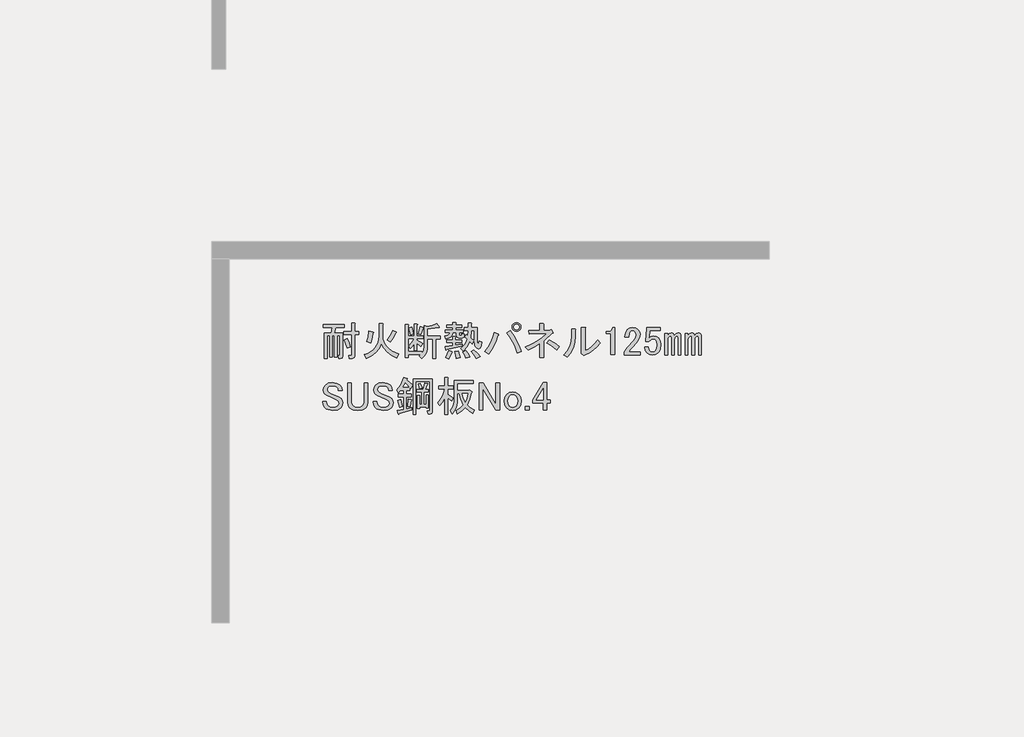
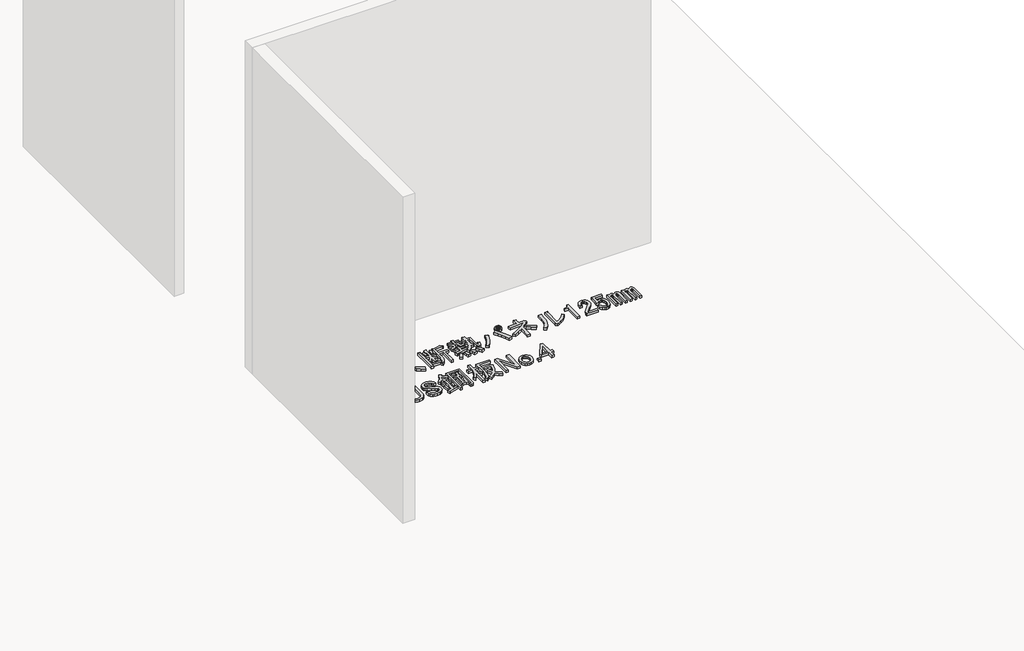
# One storey, part 115 of 117: 1 proxy.
"""IFC4 building model written with IfcOpenShell, lengths in millimetres."""

from ifc_helpers import new_model, si_unit, frame, origin, place, context, project, spatial, polyline, outline, extrude, element, save

model = new_model("IFC4")

# Units and contexts
model_context = context("Model", 3, world=origin())
ifc_project = project(units=[si_unit("LENGTHUNIT", "METRE", prefix="MILLI")], contexts=[model_context])

# Site, building, storey
site = spatial("IfcSite", under=ifc_project)
building = spatial("IfcBuilding", under=site)
storey = spatial("IfcBuildingStorey", under=building, Name="レベル 1", Elevation=500.0)

# Proxy
placement = place(None, origin())
element("IfcBuildingElementProxy", 1, Name="200㎜\u3000MS Pゴシック", ObjectType="200㎜\u3000MS Pゴシック", at=placement, inside=storey, context=model_context, shape_type="SweptSolid", body=[
    extrude(outline(polyline([(72978.5674486, 7229.3142262), (72971.0959694, 7259.7748726), (72960.176115, 7289.0860605), (72982.0158237, 7297.132269), (72994.372501, 7267.5337164), (73001.5566157, 7238.5098931), (72978.5674486, 7229.3142262)])), frame((0.0, 0.0, 500.0), z_axis=(0.0, 0.0, 1.0), x_axis=(1.0, 0.0, 0.0)), (0.0, 0.0, 1.0), 25.0),
    extrude(outline(polyline([(72887.7602388, 7320.121436), (72871.6678219, 7320.121436), (72871.6678219, 7164.9445585), (72852.1270299, 7164.9445585), (72852.1270299, 7320.121436), (72833.7356963, 7320.121436), (72833.7356963, 7152.3005167), (72814.1949043, 7152.3005167), (72814.1949043, 7338.5127697), (72865.9205301, 7338.5127697), (72871.6678219, 7377.5943537), (72804.9992375, 7377.5943537), (72804.9992375, 7399.4340623), (72960.176115, 7399.4340623), (72960.176115, 7377.5943537), (72895.8064473, 7377.5943537), (72885.4613221, 7338.5127697), (72946.3826148, 7338.5127697), (72946.3826148, 7170.6918503), (72942.3595106, 7158.6225376), (72930.2901979, 7154.5994334), (72919.9450727, 7154.5994334), (72915.3472393, 7176.439142), (72922.2439894, 7176.439142), (72925.6923645, 7177.5886004), (72926.8418228, 7181.0369755), (72926.8418228, 7320.121436), (72907.3010308, 7320.121436), (72907.3010308, 7164.9445585), (72887.7602388, 7164.9445585), (72887.7602388, 7320.121436)])), frame((0.0, 0.0, 500.0), z_axis=(0.0, 0.0, 1.0), x_axis=(1.0, 0.0, 0.0)), (0.0, 0.0, 1.0), 25.0),
    extrude(outline(polyline([(72956.72774, 7325.8687278), (72956.72774, 7347.7084365), (73013.0511992, 7347.7084365), (73013.0511992, 7409.7791875), (73034.8909079, 7409.7791875), (73039.7761059, 7407.4802708), (73036.0403663, 7402.8824374), (73036.0403663, 7347.7084365), (73064.7768251, 7347.7084365), (73064.7768251, 7325.8687278), (73036.0403663, 7325.8687278), (73036.0403663, 7172.990767), (73031.4425328, 7159.1972668), (73017.6490326, 7154.5994334), (72994.6598656, 7154.5994334), (72991.2114905, 7176.439142), (73008.4533658, 7176.439142), (73011.9017409, 7177.5886004), (73013.0511992, 7181.0369755), (73013.0511992, 7325.8687278), (72956.72774, 7325.8687278)])), frame((0.0, 0.0, 500.0), z_axis=(0.0, 0.0, 1.0), x_axis=(1.0, 0.0, 0.0)), (0.0, 0.0, 1.0), 25.0),
    extrude(outline(polyline([(73226.8504527, 7261.4990601), (73210.9017181, 7226.6561038), (73187.1941395, 7196.8420278), (73155.7277172, 7172.0568321), (73116.5024509, 7152.3005167), (73102.7089507, 7181.0369755), (73128.032955, 7190.71757), (73149.9804254, 7202.5174784), (73168.5513619, 7216.4367006), (73183.7457645, 7232.4752367), (73195.5636332, 7250.6330866), (73204.0049679, 7270.9102504), (73209.0697688, 7293.3067279), (73210.7580358, 7317.8225193), (73210.7580358, 7408.6297292), (73237.1955779, 7406.3308125), (73240.6439529, 7402.8824374), (73237.1955779, 7397.1351456), (73237.1955779, 7317.8225193), (73238.9916065, 7296.377937), (73244.3796926, 7276.2983364), (73253.3598359, 7257.5837176), (73265.9320367, 7240.2340806), (73282.0962947, 7224.2494254), (73301.8526102, 7209.629752), (73352.1414131, 7184.4853505), (73340.6468295, 7155.7488917), (73301.2060398, 7175.2896837), (73269.0930471, 7199.4283091), (73244.3078514, 7228.1647679), (73226.8504527, 7261.4990601)])), frame((0.0, 0.0, 500.0), z_axis=(0.0, 0.0, 1.0), x_axis=(1.0, 0.0, 0.0)), (0.0, 0.0, 1.0), 25.0),
    extrude(outline(polyline([(73330.3017044, 7337.3633113), (73310.1861832, 7297.9943628), (73293.5190371, 7271.8441853), (73270.5298701, 7286.7871438), (73290.3580266, 7318.3972485), (73308.4619957, 7358.0535617), (73333.7500794, 7345.4095198), (73336.3363607, 7341.6737801), (73330.3017044, 7337.3633113)])), frame((0.0, 0.0, 500.0), z_axis=(0.0, 0.0, 1.0), x_axis=(1.0, 0.0, 0.0)), (0.0, 0.0, 1.0), 25.0),
    extrude(outline(polyline([(73122.2497427, 7276.4420187), (73134.0316908, 7310.6384046), (73137.1927012, 7353.4557283), (73165.92916, 7346.5589781), (73170.5269934, 7342.8232385), (73165.92916, 7338.5127697), (73162.1934204, 7304.0290191), (73150.9862015, 7267.2463519), (73122.2497427, 7276.4420187)])), frame((0.0, 0.0, 500.0), z_axis=(0.0, 0.0, 1.0), x_axis=(1.0, 0.0, 0.0)), (0.0, 0.0, 1.0), 25.0),
    extrude(outline(polyline([(73647.5522095, 7381.0427287), (73645.828022, 7376.4448953), (73638.3565427, 7378.743812), (73561.3428331, 7366.0997701), (73561.3428331, 7316.673061), (73653.2995013, 7316.673061), (73653.2995013, 7294.8333523), (73622.2641258, 7294.8333523), (73622.2641258, 7154.5994334), (73599.2749588, 7154.5994334), (73599.2749588, 7294.8333523), (73561.3428331, 7294.8333523), (73561.3428331, 7245.4066432), (73558.7565518, 7217.6041193), (73550.997708, 7192.8189236), (73538.0663015, 7171.051056), (73519.9623325, 7152.3005167), (73502.7204572, 7171.8413086), (73513.0655823, 7181.0369755), (73423.4078309, 7181.0369755), (73423.4078309, 7159.1972668), (73400.4186638, 7159.1972668), (73400.4186638, 7398.284604), (73422.2583725, 7398.284604), (73427.1435705, 7395.9856873), (73423.4078309, 7391.3878539), (73423.4078309, 7315.5236026), (73465.9377899, 7315.5236026), (73465.9377899, 7402.8824374), (73484.3291235, 7402.8824374), (73489.2143215, 7400.5835207), (73485.4785819, 7395.9856873), (73485.4785819, 7315.5236026), (73529.1579993, 7315.5236026), (73529.1579993, 7297.132269), (73485.4785819, 7297.132269), (73485.4785819, 7287.9366022), (73525.7096242, 7261.4990601), (73511.916124, 7239.6593514), (73485.4785819, 7266.0968935), (73485.4785819, 7213.2218093), (73465.9377899, 7213.2218093), (73465.9377899, 7261.4990601), (73452.7190189, 7241.6709035), (73438.3507895, 7225.8658512), (73425.7067476, 7244.2571848), (73447.5464563, 7268.3958102), (73464.7883316, 7297.132269), (73423.4078309, 7297.132269), (73423.4078309, 7202.8766841), (73521.1117908, 7202.8766841), (73521.1117908, 7189.0831839), (73534.0431973, 7213.2218093), (73538.3536661, 7246.5561015), (73538.3536661, 7391.3878539), (73560.1933748, 7385.6405621), (73596.4013129, 7393.1120414), (73626.8619592, 7406.3308125), (73647.5522095, 7381.0427287)])), frame((0.0, 0.0, 500.0), z_axis=(0.0, 0.0, 1.0), x_axis=(1.0, 0.0, 0.0)), (0.0, 0.0, 1.0), 25.0),
    extrude(outline(polyline([(73493.5247904, 7332.7654779), (73510.7666656, 7385.6405621), (73531.456916, 7379.8932704), (73533.1811035, 7376.7322599), (73529.1579993, 7374.1459786), (73511.916124, 7325.8687278), (73493.5247904, 7332.7654779)])), frame((0.0, 0.0, 500.0), z_axis=(0.0, 0.0, 1.0), x_axis=(1.0, 0.0, 0.0)), (0.0, 0.0, 1.0), 25.0),
    extrude(outline(polyline([(73439.5002478, 7324.7192695), (73426.8562059, 7375.2954369), (73446.3969979, 7382.1921871), (73454.1558418, 7358.0535617), (73459.0410398, 7331.6160196), (73439.5002478, 7324.7192695)])), frame((0.0, 0.0, 500.0), z_axis=(0.0, 0.0, 1.0), x_axis=(1.0, 0.0, 0.0)), (0.0, 0.0, 1.0), 25.0),
    extrude(outline(polyline([(73770.5442532, 7340.8116864), (73745.2561695, 7340.8116864), (73740.6583361, 7323.3542877), (73730.3132109, 7310.0636755), (73714.220794, 7300.9398498), (73692.3810853, 7295.9828107), (73687.7832519, 7315.5236026), (73713.0713356, 7324.1445403), (73720.5428149, 7331.4723373), (73724.5659191, 7340.8116864), (73688.9327102, 7340.8116864), (73688.9327102, 7359.20302), (73742.9572528, 7359.20302), (73742.9572528, 7376.4448953), (73699.2778354, 7376.4448953), (73699.2778354, 7394.8362289), (73742.9572528, 7394.8362289), (73742.9572528, 7413.2275626), (73764.7969614, 7413.2275626), (73769.6821594, 7410.9286459), (73765.9464198, 7406.3308125), (73765.9464198, 7394.8362289), (73808.4763788, 7394.8362289), (73808.4763788, 7376.4448953), (73765.9464198, 7376.4448953), (73765.9464198, 7359.20302), (73818.821504, 7359.20302), (73818.821504, 7340.8116864), (73790.0850452, 7340.8116864), (73790.0850452, 7328.1676445), (73791.5218681, 7322.9950819), (73795.832337, 7321.2708944), (73806.1774621, 7321.2708944), (73809.9132018, 7324.4319049), (73809.6258372, 7333.9149363), (73829.1666292, 7331.6160196), (73826.2929833, 7310.0636755), (73820.9767384, 7304.6755894), (73813.0742122, 7302.8795608), (73788.9355868, 7302.8795608), (73775.1420866, 7307.7647588), (73770.5442532, 7322.4203528), (73770.5442532, 7340.8116864)])), frame((0.0, 0.0, 500.0), z_axis=(0.0, 0.0, 1.0), x_axis=(1.0, 0.0, 0.0)), (0.0, 0.0, 1.0), 25.0),
    extrude(outline(polyline([(73901.5825053, 7358.0535617), (73879.7427966, 7358.0535617), (73875.1449632, 7300.5806441), (73894.6857552, 7282.1893104), (73884.3406301, 7260.3496017), (73868.2482131, 7276.4420187), (73848.9947857, 7238.7972576), (73818.821504, 7206.3250592), (73801.5796287, 7227.0153095), (73816.6662696, 7238.9409399), (73829.7413583, 7254.0275808), (73840.804895, 7272.2752321), (73849.8568795, 7293.683894), (73832.6150042, 7308.6268525), (73840.6612127, 7325.8687278), (73854.4547129, 7315.5236026), (73856.7536296, 7358.0535617), (73829.1666292, 7358.0535617), (73829.1666292, 7376.4448953), (73856.7536296, 7376.4448953), (73856.7536296, 7410.9286459), (73878.5933383, 7410.9286459), (73883.4785363, 7408.6297292), (73879.7427966, 7404.0318957), (73879.7427966, 7376.4448953), (73921.1232973, 7376.4448953), (73921.1232973, 7279.8903937), (73924.5716724, 7255.7517683), (73927.804524, 7253.7402162), (73930.6063287, 7256.9012267), (73934.9167975, 7278.7409354), (73954.4575895, 7271.8441853), (73949.9315973, 7245.0474374), (73942.1009122, 7229.0268616), (73930.9655345, 7223.7824579), (73916.5254639, 7229.3142262), (73909.9879195, 7236.6420232), (73905.318245, 7248.280289), (73901.5825053, 7284.4882271), (73901.5825053, 7358.0535617)])), frame((0.0, 0.0, 500.0), z_axis=(0.0, 0.0, 1.0), x_axis=(1.0, 0.0, 0.0)), (0.0, 0.0, 1.0), 25.0),
    extrude(outline(polyline([(73700.4272937, 7218.9691011), (73698.4157416, 7214.0839031), (73694.680002, 7215.520726), (73688.9327102, 7239.6593514), (73744.1067111, 7247.7055599), (73744.1067111, 7270.6947269), (73700.4272937, 7270.6947269), (73700.4272937, 7289.0860605), (73744.1067111, 7289.0860605), (73744.1067111, 7312.0752276), (73762.4980447, 7312.0752276), (73767.3832427, 7309.7763109), (73763.6475031, 7305.1784775), (73763.6475031, 7289.0860605), (73808.4763788, 7289.0860605), (73808.4763788, 7270.6947269), (73763.6475031, 7270.6947269), (73763.6475031, 7251.1539349), (73814.2236706, 7260.3496017), (73814.2236706, 7244.2571848), (73700.4272937, 7218.9691011)])), frame((0.0, 0.0, 500.0), z_axis=(0.0, 0.0, 1.0), x_axis=(1.0, 0.0, 0.0)), (0.0, 0.0, 1.0), 25.0),
    extrude(outline(polyline([(73898.1341303, 7214.3712677), (73922.8474849, 7193.1062881), (73941.8135477, 7168.3929336), (73915.3760056, 7153.449975), (73896.1225782, 7183.0485276), (73877.4438799, 7202.8766841), (73898.1341303, 7214.3712677)])), frame((0.0, 0.0, 500.0), z_axis=(0.0, 0.0, 1.0), x_axis=(1.0, 0.0, 0.0)), (0.0, 0.0, 1.0), 25.0),
    extrude(outline(polyline([(73839.5117543, 7155.7488917), (73831.1781813, 7180.4622463), (73817.6720456, 7201.7272258), (73838.362296, 7209.7734343), (73855.3168067, 7188.2210902), (73867.0987548, 7164.9445585), (73839.5117543, 7155.7488917)])), frame((0.0, 0.0, 500.0), z_axis=(0.0, 0.0, 1.0), x_axis=(1.0, 0.0, 0.0)), (0.0, 0.0, 1.0), 25.0),
    extrude(outline(polyline([(73738.3594193, 7204.0261425), (73741.8077944, 7199.1409445), (73736.0605026, 7195.979934), (73726.2901067, 7170.4044857), (73715.3702523, 7151.1510583), (73692.3810853, 7162.6456418), (73705.0251271, 7186.209538), (73715.3702523, 7213.2218093), (73738.3594193, 7204.0261425)])), frame((0.0, 0.0, 500.0), z_axis=(0.0, 0.0, 1.0), x_axis=(1.0, 0.0, 0.0)), (0.0, 0.0, 1.0), 25.0),
    extrude(outline(polyline([(73783.1882951, 7208.6239759), (73793.2460557, 7181.32434), (73798.1312537, 7159.1972668), (73769.3947949, 7153.449975), (73766.8085136, 7175.0023191), (73759.0496697, 7205.1756008), (73783.1882951, 7208.6239759)])), frame((0.0, 0.0, 500.0), z_axis=(0.0, 0.0, 1.0), x_axis=(1.0, 0.0, 0.0)), (0.0, 0.0, 1.0), 25.0),
    extrude(outline(polyline([(74206.1889686, 7350.0073532), (74193.5449268, 7352.3062699), (74183.1998016, 7359.20302), (74176.3030515, 7369.5481452), (74174.0041348, 7382.1921871), (74176.3030515, 7394.8362289), (74183.1998016, 7405.1813541), (74193.5449268, 7412.0781042), (74206.1889686, 7414.3770209), (74218.8330105, 7412.0781042), (74229.1781357, 7405.1813541), (74236.0748858, 7394.8362289), (74238.3738025, 7382.1921871), (74236.0748858, 7369.5481452), (74229.1781357, 7359.20302), (74218.8330105, 7352.3062699), (74206.1889686, 7350.0073532)]), holes=[polyline([(74206.1889686, 7361.5019367), (74214.5225417, 7362.9387597), (74221.1319272, 7367.2492285), (74225.442396, 7373.858614), (74226.879219, 7382.1921871), (74225.442396, 7390.5257601), (74221.1319272, 7397.1351456), (74214.5225417, 7401.4456145), (74206.1889686, 7402.8824374), (74197.8553956, 7401.4456145), (74191.2460101, 7397.1351456), (74186.9355412, 7390.5257601), (74185.4987183, 7382.1921871), (74186.9355412, 7373.858614), (74191.2460101, 7367.2492285), (74197.8553956, 7362.9387597), (74206.1889686, 7361.5019367)])]), frame((0.0, 0.0, 500.0), z_axis=(0.0, 0.0, 1.0), x_axis=(1.0, 0.0, 0.0)), (0.0, 0.0, 1.0), 25.0),
    extrude(outline(polyline([(74160.2106345, 7355.754645), (74186.8637001, 7319.0438188), (74209.3499791, 7281.3272167), (74227.6694716, 7242.6048384), (74241.8221775, 7202.8766841), (74210.786802, 7192.531559), (74195.3409554, 7235.6362472), (74177.7398744, 7274.143102), (74157.983559, 7308.0521234), (74136.0720092, 7337.3633113), (74160.2106345, 7355.754645)])), frame((0.0, 0.0, 500.0), z_axis=(0.0, 0.0, 1.0), x_axis=(1.0, 0.0, 0.0)), (0.0, 0.0, 1.0), 25.0),
    extrude(outline(polyline([(74072.8517998, 7329.3171029), (74076.874904, 7323.8571757), (74070.5528831, 7318.9719777), (74058.6272527, 7283.5542922), (74043.5406118, 7249.717112), (74025.2929605, 7217.460437), (74003.8842987, 7186.7842672), (73977.4467566, 7204.0261425), (74000.6514471, 7235.4925649), (74019.689351, 7268.9705394), (74034.5604684, 7304.460066), (74045.2647993, 7341.9611447), (74072.8517998, 7329.3171029)])), frame((0.0, 0.0, 500.0), z_axis=(0.0, 0.0, 1.0), x_axis=(1.0, 0.0, 0.0)), (0.0, 0.0, 1.0), 25.0),
    extrude(outline(polyline([(74449.8741393, 7360.3524784), (74456.7708894, 7362.6513951), (74469.4149312, 7345.4095198), (74470.5643896, 7339.3748634), (74464.8170978, 7337.3633113), (74401.5968885, 7281.0398521), (74401.5968885, 7160.3467251), (74375.1593464, 7160.3467251), (74375.1593464, 7262.6485184), (74334.9283041, 7238.5098931), (74290.0994283, 7216.6701844), (74270.5586363, 7237.3604347), (74316.1059235, 7256.8293855), (74357.3427419, 7279.6030291), (74394.2690915, 7305.6813655), (74426.8849722, 7335.0643946), (74296.9961784, 7329.3171029), (74293.5478034, 7354.6051866), (74375.1593464, 7356.9041033), (74375.1593464, 7408.6297292), (74398.1485134, 7408.6297292), (74404.1831698, 7405.1813541), (74401.5968885, 7399.4340623), (74401.5968885, 7358.0535617), (74449.8741393, 7360.3524784)])), frame((0.0, 0.0, 500.0), z_axis=(0.0, 0.0, 1.0), x_axis=(1.0, 0.0, 0.0)), (0.0, 0.0, 1.0), 25.0),
    extrude(outline(polyline([(74495.8524733, 7216.6701844), (74458.7824415, 7245.9813723), (74425.7355139, 7267.2463519), (74442.9773892, 7289.0860605), (74481.7716085, 7265.8095289), (74515.3932653, 7239.6593514), (74495.8524733, 7216.6701844)])), frame((0.0, 0.0, 500.0), z_axis=(0.0, 0.0, 1.0), x_axis=(1.0, 0.0, 0.0)), (0.0, 0.0, 1.0), 25.0),
    extrude(outline(polyline([(74702.8469334, 7209.7734343), (74727.6321291, 7221.9864292), (74751.4115488, 7239.0846222), (74774.1851924, 7261.0680132), (74795.9530599, 7287.9366022), (74812.0454768, 7266.0968935), (74788.7689452, 7238.2943696), (74762.6187677, 7214.6586322), (74733.5949443, 7195.1896814), (74701.697475, 7179.8875171), (74692.5018082, 7175.2896837), (74674.1104746, 7189.0831839), (74676.4093913, 7194.8304757), (74676.4093913, 7379.8932704), (74700.5480167, 7379.8932704), (74706.2953084, 7376.4448953), (74702.8469334, 7370.6976035), (74702.8469334, 7209.7734343)])), frame((0.0, 0.0, 500.0), z_axis=(0.0, 0.0, 1.0), x_axis=(1.0, 0.0, 0.0)), (0.0, 0.0, 1.0), 25.0),
    extrude(outline(polyline([(74548.8195142, 7178.7380587), (74573.9639157, 7207.9774056), (74591.9242024, 7240.5214452), (74602.7003745, 7276.3701775), (74606.2924318, 7315.5236026), (74606.2924318, 7367.2492285), (74630.4310572, 7367.2492285), (74636.178349, 7363.8008534), (74632.7299739, 7358.0535617), (74632.7299739, 7316.673061), (74628.9223931, 7270.9102504), (74617.4996507, 7230.17632), (74598.4617468, 7194.4712699), (74571.8086812, 7163.7951002), (74548.8195142, 7178.7380587)])), frame((0.0, 0.0, 500.0), z_axis=(0.0, 0.0, 1.0), x_axis=(1.0, 0.0, 0.0)), (0.0, 0.0, 1.0), 25.0),
    extrude(outline(polyline([(74891.3581031, 7356.9041033), (74899.4043116, 7367.8239577), (74902.8526866, 7379.8932704), (74916.6461869, 7379.8932704), (74916.6461869, 7181.0369755), (74890.2086448, 7181.0369755), (74890.2086448, 7333.9149363), (74855.7248942, 7333.9149363), (74855.7248942, 7347.7084365), (74866.0700194, 7347.7084365), (74880.4382488, 7350.0073532), (74891.3581031, 7356.9041033)])), frame((0.0, 0.0, 500.0), z_axis=(0.0, 0.0, 1.0), x_axis=(1.0, 0.0, 0.0)), (0.0, 0.0, 1.0), 25.0),
    extrude(outline(polyline([(74991.3609797, 7309.7763109), (74995.9588132, 7341.099051), (75009.7523134, 7363.8008534), (75026.1320949, 7375.0080724), (75045.3855223, 7378.743812), (75068.0873247, 7375.0080724), (75085.6165646, 7363.8008534), (75096.8237835, 7347.1337073), (75100.5595232, 7327.0181862), (75096.2490544, 7301.1553732), (75083.3176479, 7278.7409354), (75049.9833557, 7240.8088098), (75031.5920221, 7220.1185594), (75017.7985218, 7201.7272258), (75104.0078982, 7201.7272258), (75104.0078982, 7179.8875171), (74986.7631463, 7179.8875171), (74986.7631463, 7199.4283091), (74992.7978027, 7213.2218093), (75006.3039383, 7231.6131429), (75053.4317308, 7283.3387688), (75068.0873247, 7304.6037483), (75072.9725227, 7327.0181862), (75070.673606, 7339.662228), (75063.7768559, 7350.0073532), (75056.018012, 7355.1799158), (75046.5349806, 7356.9041033), (75037.914043, 7355.1799158), (75030.4425637, 7350.0073532), (75020.9595323, 7333.6275717), (75017.7985218, 7309.7763109), (74991.3609797, 7309.7763109)])), frame((0.0, 0.0, 500.0), z_axis=(0.0, 0.0, 1.0), x_axis=(1.0, 0.0, 0.0)), (0.0, 0.0, 1.0), 25.0),
    extrude(outline(polyline([(75147.6873156, 7376.4448953), (75246.5407339, 7376.4448953), (75246.5407339, 7354.6051866), (75169.5270243, 7354.6051866), (75169.5270243, 7351.1568116), (75166.0786493, 7308.6268525), (75164.9291909, 7301.7301024), (75180.4468787, 7312.0752276), (75197.1140248, 7315.5236026), (75218.0916397, 7311.787863), (75235.0461504, 7300.5806441), (75247.1154631, 7280.7524875), (75251.1385673, 7253.4528516), (75245.9660047, 7218.9691011), (75239.5003015, 7205.1756008), (75230.448317, 7193.6810173), (75212.3443479, 7181.6117046), (75190.2172746, 7177.5886004), (75169.2396597, 7181.32434), (75152.285149, 7192.531559), (75140.2158363, 7211.2102572), (75133.8938154, 7237.3604347), (75160.3313575, 7237.3604347), (75164.3544617, 7218.6817365), (75171.825941, 7206.3250592), (75179.5847849, 7201.1524966), (75189.0678163, 7199.4283091), (75201.4244936, 7201.4398612), (75210.907525, 7207.4745175), (75220.3905564, 7224.4290282), (75223.5515669, 7250.0044766), (75220.9652856, 7274.143102), (75213.2064417, 7289.0860605), (75205.7349624, 7294.2586231), (75197.1140248, 7295.9828107), (75184.1826183, 7293.3965294), (75172.9753994, 7285.6376855), (75163.7797326, 7275.2925603), (75140.7905655, 7275.2925603), (75141.9400239, 7283.3387688), (75147.6873156, 7371.8470619), (75147.6873156, 7376.4448953)])), frame((0.0, 0.0, 500.0), z_axis=(0.0, 0.0, 1.0), x_axis=(1.0, 0.0, 0.0)), (0.0, 0.0, 1.0), 25.0),
    extrude(outline(polyline([(75522.4107384, 7339.662228), (75530.7443114, 7338.2254051), (75537.353697, 7333.9149363), (75542.5262595, 7325.2939986), (75544.2504471, 7313.2246859), (75544.2504471, 7178.7380587), (75524.7096551, 7178.7380587), (75524.7096551, 7302.8795608), (75522.1233738, 7312.3625922), (75514.3645299, 7315.5236026), (75504.0194048, 7310.9257692), (75497.9847484, 7302.3048316), (75495.9731963, 7292.5344356), (75495.9731963, 7178.7380587), (75476.4324043, 7178.7380587), (75476.4324043, 7302.8795608), (75473.846123, 7312.3625922), (75466.0872791, 7315.5236026), (75455.742154, 7310.9257692), (75449.7074976, 7302.3048316), (75447.6959455, 7292.5344356), (75447.6959455, 7178.7380587), (75428.1551535, 7178.7380587), (75428.1551535, 7336.213853), (75447.6959455, 7336.213853), (75447.6959455, 7318.9719777), (75459.7652582, 7334.4896654), (75472.9840292, 7339.662228), (75482.1796961, 7338.2254051), (75489.0764462, 7333.9149363), (75495.9731963, 7320.121436), (75508.9046028, 7334.77703), (75522.4107384, 7339.662228)])), frame((0.0, 0.0, 500.0), z_axis=(0.0, 0.0, 1.0), x_axis=(1.0, 0.0, 0.0)), (0.0, 0.0, 1.0), 25.0),
    extrude(outline(polyline([(75300.5652764, 7178.7380587), (75281.0244845, 7178.7380587), (75281.0244845, 7336.213853), (75300.5652764, 7336.213853), (75300.5652764, 7318.9719777), (75312.6345891, 7334.4896654), (75325.8533602, 7339.662228), (75335.049027, 7338.2254051), (75341.9457771, 7333.9149363), (75348.8425272, 7320.121436), (75361.7739337, 7334.77703), (75375.2800693, 7339.662228), (75383.6136424, 7338.2254051), (75390.2230279, 7333.9149363), (75395.3955905, 7325.2939986), (75397.119778, 7313.2246859), (75397.119778, 7178.7380587), (75377.578986, 7178.7380587), (75377.578986, 7302.8795608), (75374.9927047, 7312.3625922), (75367.2338609, 7315.5236026), (75356.8887357, 7310.9257692), (75350.8540793, 7302.3048316), (75348.8425272, 7292.5344356), (75348.8425272, 7178.7380587), (75329.3017352, 7178.7380587), (75329.3017352, 7302.8795608), (75326.715454, 7312.3625922), (75318.9566101, 7315.5236026), (75308.6114849, 7310.9257692), (75302.5768286, 7302.3048316), (75300.5652764, 7292.5344356), (75300.5652764, 7178.7380587)])), frame((0.0, 0.0, 500.0), z_axis=(0.0, 0.0, 1.0), x_axis=(1.0, 0.0, 0.0)), (0.0, 0.0, 1.0), 25.0),
    extrude(outline(polyline([(72807.2981542, 6924.7192695), (72811.3212584, 6945.1221552), (72823.3905711, 6962.6513951), (72843.7934569, 6974.7207078), (72872.8172803, 6978.743812), (72904.1400204, 6974.1459786), (72926.8418228, 6960.3524784), (72938.9111355, 6942.8232385), (72942.9342397, 6922.4203528), (72916.4966976, 6922.4203528), (72914.1977809, 6935.0643946), (72907.3010308, 6945.4095198), (72894.0822598, 6953.1683637), (72875.116197, 6955.754645), (72854.7133112, 6953.4557283), (72841.7819048, 6946.5589781), (72835.7472484, 6937.9380405), (72833.7356963, 6928.1676445), (72838.3335297, 6913.2246859), (72859.02378, 6901.7301024), (72918.7956143, 6875.2925603), (72936.0374896, 6863.7979768), (72945.520521, 6850.0044766), (72948.6815315, 6833.9120596), (72944.6584273, 6812.6470801), (72932.5891146, 6794.8304757), (72922.6031951, 6787.2871552), (72909.8873121, 6781.8990692), (72876.2656553, 6777.5886004), (72842.6439985, 6782.761163), (72829.0660217, 6789.2268662), (72817.6432794, 6798.2788507), (72806.4360604, 6816.6701844), (72802.7003208, 6841.9582681), (72829.1378629, 6841.9582681), (72831.4367796, 6824.1416637), (72838.3335297, 6812.072351), (72854.4259466, 6802.5893196), (72877.4151137, 6799.4283091), (72898.3927286, 6802.301955), (72913.0483226, 6810.9228926), (72919.9450727, 6820.1185594), (72922.2439894, 6829.3142262), (72920.5198019, 6838.7972576), (72915.3472393, 6846.5561015), (72896.9559057, 6858.050685), (72867.0699885, 6871.8441853), (72833.7356963, 6886.7871438), (72817.6432794, 6897.132269), (72809.8844355, 6909.2015817), (72807.2981542, 6924.7192695)])), frame((0.0, 0.0, 500.0), z_axis=(0.0, 0.0, 1.0), x_axis=(1.0, 0.0, 0.0)), (0.0, 0.0, 1.0), 25.0),
    extrude(outline(polyline([(72982.7054987, 6976.4448953), (73009.1430408, 6976.4448953), (73009.1430408, 6838.5098931), (73011.7293221, 6823.8542991), (73019.488166, 6812.072351), (73035.0058537, 6802.5893196), (73056.2708332, 6799.4283091), (73077.5358128, 6802.5893196), (73093.0535005, 6812.072351), (73100.8123444, 6823.8542991), (73103.3986257, 6838.5098931), (73103.3986257, 6976.4448953), (73129.8361678, 6976.4448953), (73129.8361678, 6837.3604347), (73125.8130635, 6814.3712677), (73113.7437508, 6795.979934), (73103.2549434, 6787.9337256), (73090.1798546, 6782.1864338), (73056.2708332, 6777.5886004), (73022.3618119, 6782.1864338), (73009.2867231, 6787.9337256), (72998.7979156, 6795.979934), (72986.7286029, 6814.3712677), (72982.7054987, 6837.3604347), (72982.7054987, 6976.4448953)])), frame((0.0, 0.0, 500.0), z_axis=(0.0, 0.0, 1.0), x_axis=(1.0, 0.0, 0.0)), (0.0, 0.0, 1.0), 25.0),
    extrude(outline(polyline([(73172.1822135, 6924.7192695), (73176.2053177, 6945.1221552), (73188.2746304, 6962.6513951), (73208.6775161, 6974.7207078), (73237.7013395, 6978.743812), (73269.0240796, 6974.1459786), (73291.7258821, 6960.3524784), (73303.7951948, 6942.8232385), (73307.818299, 6922.4203528), (73281.3807569, 6922.4203528), (73279.0818402, 6935.0643946), (73272.1850901, 6945.4095198), (73258.966319, 6953.1683637), (73240.0002562, 6955.754645), (73219.5973705, 6953.4557283), (73206.665964, 6946.5589781), (73200.6313077, 6937.9380405), (73198.6197556, 6928.1676445), (73203.217589, 6913.2246859), (73223.9078393, 6901.7301024), (73283.6796736, 6875.2925603), (73300.9215489, 6863.7979768), (73310.4045803, 6850.0044766), (73313.5655908, 6833.9120596), (73309.5424865, 6812.6470801), (73297.4731738, 6794.8304757), (73287.4872544, 6787.2871552), (73274.7713714, 6781.8990692), (73241.1497146, 6777.5886004), (73207.5280578, 6782.761163), (73193.950081, 6789.2268662), (73182.5273386, 6798.2788507), (73171.3201197, 6816.6701844), (73167.5843801, 6841.9582681), (73194.0219222, 6841.9582681), (73196.3208389, 6824.1416637), (73203.217589, 6812.072351), (73219.3100059, 6802.5893196), (73242.2991729, 6799.4283091), (73263.2767879, 6802.301955), (73277.9323819, 6810.9228926), (73284.829132, 6820.1185594), (73287.1280487, 6829.3142262), (73285.4038611, 6838.7972576), (73280.2312986, 6846.5561015), (73261.8399649, 6858.050685), (73231.9540478, 6871.8441853), (73198.6197556, 6886.7871438), (73182.5273386, 6897.132269), (73174.7684948, 6909.2015817), (73172.1822135, 6924.7192695)])), frame((0.0, 0.0, 500.0), z_axis=(0.0, 0.0, 1.0), x_axis=(1.0, 0.0, 0.0)), (0.0, 0.0, 1.0), 25.0),
    extrude(outline(polyline([(73441.8451429, 6937.3633113), (73400.4646422, 6981.0427287), (73378.6249335, 6941.9611447), (73433.7989344, 6941.9611447), (73433.7989344, 6923.5698111), (73407.3613923, 6923.5698111), (73407.3613923, 6894.8333523), (73445.2935179, 6894.8333523), (73445.2935179, 6876.4420187), (73407.3613923, 6876.4420187), (73407.3613923, 6789.0831839), (73446.4429763, 6799.4283091), (73448.741893, 6779.8875171), (73356.7852248, 6754.5994334), (73354.4863081, 6748.8521416), (73349.8884747, 6752.3005167), (73342.9917246, 6775.2896837), (73387.8206003, 6784.4853505), (73387.8206003, 6876.4420187), (73349.8884747, 6876.4420187), (73349.8884747, 6894.8333523), (73387.8206003, 6894.8333523), (73387.8206003, 6923.5698111), (73365.9808916, 6923.5698111), (73351.037933, 6905.1784775), (73338.3938912, 6925.8687278), (73366.5556208, 6963.5134888), (73391.2689754, 7014.3770209), (73413.1086841, 7008.6297292), (73416.5570591, 7004.8939895), (73410.8097674, 7002.8824374), (73409.660309, 6999.4340623), (73454.4891847, 6961.5019367), (73441.8451429, 6937.3633113)])), frame((0.0, 0.0, 500.0), z_axis=(0.0, 0.0, 1.0), x_axis=(1.0, 0.0, 0.0)), (0.0, 0.0, 1.0), 25.0),
    extrude(outline(polyline([(73509.6631856, 6974.1459786), (73516.8473003, 6958.9156554), (73522.3072275, 6938.5127697), (73505.0653522, 6932.7654779), (73493.5707687, 6969.5481452), (73509.6631856, 6974.1459786)])), frame((0.0, 0.0, 500.0), z_axis=(0.0, 0.0, 1.0), x_axis=(1.0, 0.0, 0.0)), (0.0, 0.0, 1.0), 25.0),
    extrude(outline(polyline([(73562.5382698, 6972.9965202), (73565.1245511, 6969.5481452), (73559.0898948, 6966.0997701), (73546.4458529, 6928.1676445), (73567.1361032, 6928.1676445), (73567.1361032, 6909.7763109), (73536.1007277, 6909.7763109), (73536.1007277, 6821.2680178), (73551.0436863, 6821.2680178), (73551.0436863, 6889.0860605), (73567.1361032, 6889.0860605), (73567.1361032, 6794.8304757), (73551.0436863, 6794.8304757), (73551.0436863, 6802.8766841), (73505.0653522, 6802.8766841), (73505.0653522, 6790.2326423), (73488.9729353, 6790.2326423), (73488.9729353, 6886.7871438), (73505.0653522, 6886.7871438), (73505.0653522, 6821.2680178), (73520.0083108, 6821.2680178), (73520.0083108, 6909.7763109), (73484.3751019, 6909.7763109), (73484.3751019, 6928.1676445), (73530.353436, 6928.1676445), (73540.6985611, 6977.5943537), (73562.5382698, 6972.9965202)])), frame((0.0, 0.0, 500.0), z_axis=(0.0, 0.0, 1.0), x_axis=(1.0, 0.0, 0.0)), (0.0, 0.0, 1.0), 25.0),
    extrude(outline(polyline([(73456.7881014, 7006.3308125), (73597.0220204, 7006.3308125), (73597.0220204, 6766.0940169), (73593.2862807, 6754.8867979), (73582.0790618, 6751.1510583), (73565.9866449, 6751.1510583), (73561.3888115, 6772.990767), (73572.883395, 6772.990767), (73576.33177, 6774.1402253), (73577.4812284, 6777.5886004), (73577.4812284, 6987.9394788), (73476.3288934, 6987.9394788), (73476.3288934, 6748.8521416), (73456.7881014, 6748.8521416), (73456.7881014, 7006.3308125)])), frame((0.0, 0.0, 500.0), z_axis=(0.0, 0.0, 1.0), x_axis=(1.0, 0.0, 0.0)), (0.0, 0.0, 1.0), 25.0),
    extrude(outline(polyline([(73445.2935179, 6858.050685), (73447.8797992, 6854.8896746), (73444.1440596, 6852.3033933), (73436.0978511, 6805.1756008), (73417.7065175, 6807.4745175), (73423.4538092, 6861.4990601), (73445.2935179, 6858.050685)])), frame((0.0, 0.0, 500.0), z_axis=(0.0, 0.0, 1.0), x_axis=(1.0, 0.0, 0.0)), (0.0, 0.0, 1.0), 25.0),
    extrude(outline(polyline([(73368.2798083, 6856.9012267), (73379.7743918, 6805.1756008), (73359.0841415, 6799.4283091), (73347.589558, 6851.1539349), (73368.2798083, 6856.9012267)])), frame((0.0, 0.0, 500.0), z_axis=(0.0, 0.0, 1.0), x_axis=(1.0, 0.0, 0.0)), (0.0, 0.0, 1.0), 25.0),
    extrude(outline(polyline([(73768.2913148, 6777.5886004), (73797.0277736, 6794.8304757), (73818.8674823, 6816.6701844), (73801.0508779, 6858.6254142), (73791.2804819, 6899.4311857), (73778.63644, 6899.4311857), (73778.63644, 6875.2925603), (73776.193841, 6833.5528539), (73768.866044, 6799.1409445), (73756.653049, 6772.0568321), (73739.554856, 6752.3005167), (73725.7613558, 6775.2896837), (73738.8364446, 6792.6752413), (73748.1757937, 6814.9459968), (73753.7794031, 6842.1019504), (73755.647273, 6874.143102), (73755.647273, 6994.8362289), (73892.4328169, 6994.8362289), (73892.4328169, 6972.9965202), (73778.63644, 6972.9965202), (73778.63644, 6921.2708944), (73857.9490663, 6921.2708944), (73863.6963581, 6927.0181862), (73883.23715, 6913.2246859), (73884.673973, 6909.4889463), (73879.788775, 6905.1784775), (73867.4320977, 6858.6254142), (73848.7533995, 6817.8196427), (73867.7194623, 6799.4283091), (73899.329567, 6781.0369755), (73890.1339002, 6756.8983501), (73862.2595351, 6772.990767), (73833.8104409, 6798.2788507), (73809.3844509, 6773.8528608), (73777.4869817, 6753.449975), (73768.2913148, 6777.5886004)]), holes=[polyline([(73813.1201906, 6899.4311857), (73821.166399, 6866.3842581), (73833.8104409, 6838.5098931), (73846.4544828, 6864.6600706), (73854.5006912, 6899.4311857), (73813.1201906, 6899.4311857)])]), frame((0.0, 0.0, 500.0), z_axis=(0.0, 0.0, 1.0), x_axis=(1.0, 0.0, 0.0)), (0.0, 0.0, 1.0), 25.0),
    extrude(outline(polyline([(73685.5303135, 6748.8521416), (73685.5303135, 6868.3958102), (73667.713709, 6834.1994242), (73648.7476462, 6812.072351), (73637.2530627, 6832.7626013), (73654.494938, 6855.4644037), (73668.2884382, 6879.8903937), (73678.6335634, 6906.0405712), (73685.5303135, 6933.9149363), (73644.1498128, 6933.9149363), (73644.1498128, 6955.754645), (73685.5303135, 6955.754645), (73685.5303135, 7015.5264793), (73707.3700222, 7015.5264793), (73712.2552202, 7013.2275626), (73708.5194805, 7008.6297292), (73708.5194805, 6955.754645), (73746.4516061, 6955.754645), (73746.4516061, 6933.9149363), (73708.5194805, 6933.9149363), (73708.5194805, 6893.683894), (73746.4516061, 6867.2463519), (73736.106481, 6844.2571848), (73708.5194805, 6867.2463519), (73708.5194805, 6748.8521416), (73685.5303135, 6748.8521416)])), frame((0.0, 0.0, 500.0), z_axis=(0.0, 0.0, 1.0), x_axis=(1.0, 0.0, 0.0)), (0.0, 0.0, 1.0), 25.0),
    extrude(outline(polyline([(73936.1122342, 6976.4448953), (73964.848693, 6976.4448953), (74056.8053612, 6821.2680178), (74056.8053612, 6976.4448953), (74083.2429033, 6976.4448953), (74083.2429033, 6779.8875171), (74054.5064445, 6779.8875171), (73962.5497763, 6935.0643946), (73962.5497763, 6779.8875171), (73936.1122342, 6779.8875171), (73936.1122342, 6976.4448953)])), frame((0.0, 0.0, 500.0), z_axis=(0.0, 0.0, 1.0), x_axis=(1.0, 0.0, 0.0)), (0.0, 0.0, 1.0), 25.0),
    extrude(outline(polyline([(74116.3932822, 6844.2571848), (74121.2784802, 6871.5568207), (74135.9340742, 6893.683894), (74155.1875015, 6906.6153004), (74178.4640332, 6910.9257692), (74201.7405648, 6906.6153004), (74220.9939922, 6893.683894), (74235.6495862, 6871.5568207), (74240.5347842, 6844.2571848), (74235.6495862, 6816.957549), (74220.9939922, 6794.8304757), (74201.7405648, 6781.8990692), (74178.4640332, 6777.5886004), (74155.1875015, 6781.8990692), (74135.9340742, 6794.8304757), (74121.2784802, 6816.957549), (74116.3932822, 6844.2571848)]), holes=[polyline([(74178.4640332, 6890.2355189), (74165.8199913, 6887.9366022), (74155.4748661, 6881.0398521), (74145.129741, 6864.9474352), (74141.6813659, 6844.2571848), (74144.8423764, 6823.8542991), (74154.3254078, 6808.6239759), (74165.5326267, 6800.865132), (74178.4640332, 6798.2788507), (74191.3954396, 6800.865132), (74202.6026586, 6808.6239759), (74212.08569, 6823.8542991), (74215.2467004, 6844.2571848), (74211.7983254, 6864.9474352), (74201.4532002, 6881.0398521), (74191.1080751, 6887.9366022), (74178.4640332, 6890.2355189)])]), frame((0.0, 0.0, 500.0), z_axis=(0.0, 0.0, 1.0), x_axis=(1.0, 0.0, 0.0)), (0.0, 0.0, 1.0), 25.0),
    extrude(outline(polyline([(74271.064398, 6805.1756008), (74297.5019401, 6805.1756008), (74297.5019401, 6779.8875171), (74271.064398, 6779.8875171), (74271.064398, 6805.1756008)])), frame((0.0, 0.0, 500.0), z_axis=(0.0, 0.0, 1.0), x_axis=(1.0, 0.0, 0.0)), (0.0, 0.0, 1.0), 25.0),
    extrude(outline(polyline([(74400.0336251, 6978.743812), (74426.4711672, 6978.743812), (74426.4711672, 6852.3033933), (74450.6097926, 6852.3033933), (74450.6097926, 6830.4636846), (74426.4711672, 6830.4636846), (74426.4711672, 6779.8875171), (74400.0336251, 6779.8875171), (74400.0336251, 6830.4636846), (74323.0199155, 6830.4636846), (74323.0199155, 6853.4528516), (74400.0336251, 6978.743812)]), holes=[polyline([(74400.0336251, 6936.213853), (74348.3079993, 6852.3033933), (74400.0336251, 6852.3033933), (74400.0336251, 6936.213853)])]), frame((0.0, 0.0, 500.0), z_axis=(0.0, 0.0, 1.0), x_axis=(1.0, 0.0, 0.0)), (0.0, 0.0, 1.0), 25.0),
])

save(model, "model.ifc")
